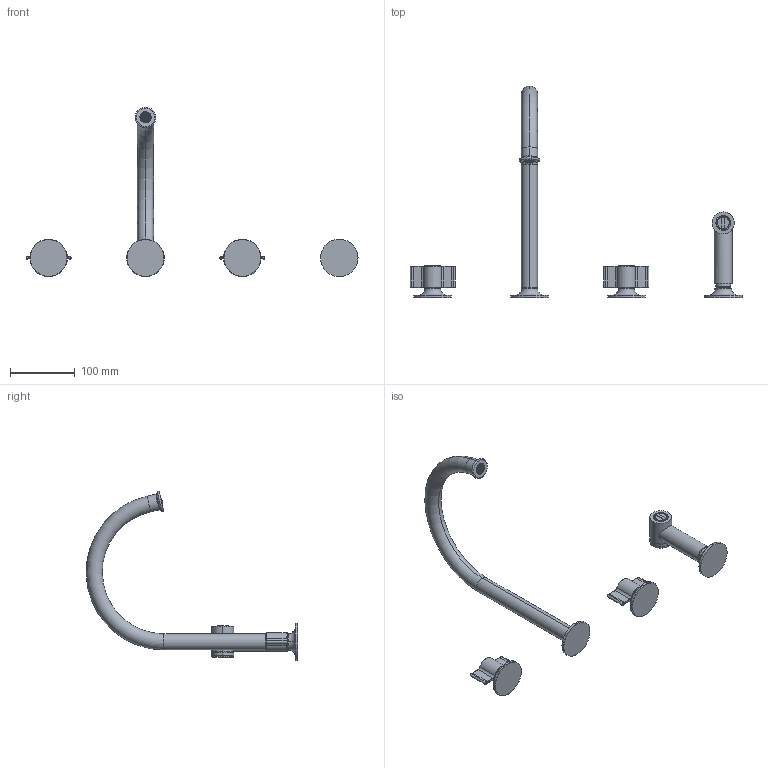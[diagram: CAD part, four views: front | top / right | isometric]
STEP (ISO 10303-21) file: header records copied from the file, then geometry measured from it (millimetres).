
FILE_DESCRIPTION((''),'2;1');
FILE_NAME('76000J4510000000_SW0001','2025-03-14T16:35:32',('cristian.dorz'),(''),'CREO PARAMETRIC BY PTC INC, 2022281','CREO PARAMETRIC BY PTC INC, 2022281','');
FILE_SCHEMA(('AUTOMOTIVE_DESIGN { 1 0 10303 214 1 1 1 1 }'));
Length unit declared in the file: millimetre
Products named in the file (1): 76000J4510000000_SW0001
Bounding box: 514 x 327.67 x 262.02 mm (x, y, z)
Volume: 471388.3 mm3; surface area: 109251.9 mm2
Topology: 6 solids, 11 shells, 946 faces, 2494 edges, 1614 vertices
Faces by surface type: plane 613, cylinder 198, torus 92, cone 32, bspline 9, sphere 2
Entity records: 39703 total; most frequent: CARTESIAN_POINT 8735, DIRECTION 5255, ORIENTED_EDGE 4978, EDGE_CURVE 2489, AXIS2_PLACEMENT_3D 1921, VERTEX_POINT 1610, VECTOR 1410, LINE 1410
